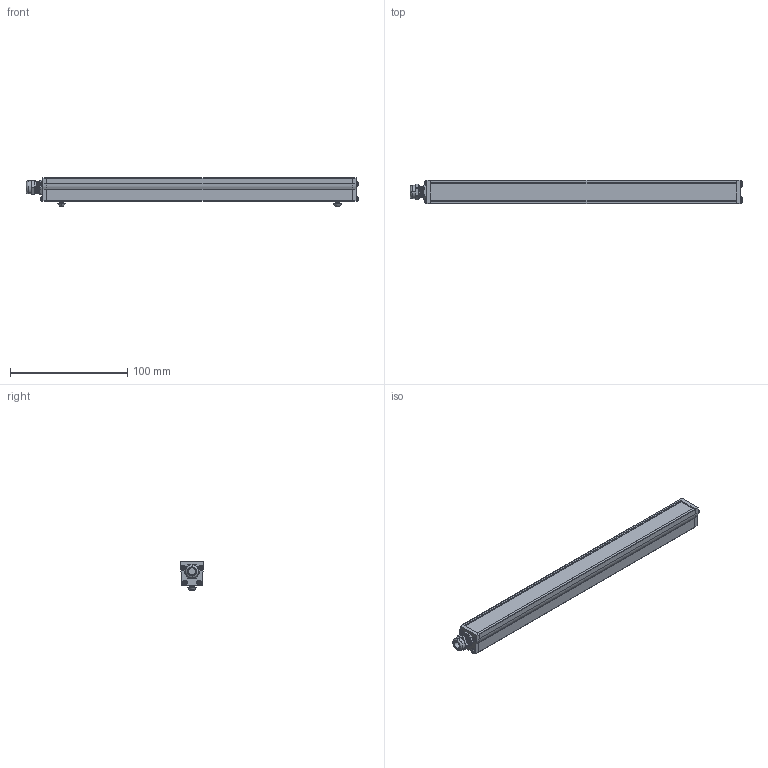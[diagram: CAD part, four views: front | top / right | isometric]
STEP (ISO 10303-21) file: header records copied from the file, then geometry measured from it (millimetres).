
FILE_DESCRIPTION (( 'STEP AP214' ), '1' );
FILE_NAME ('AL126 _NONSEALED__AL12610.stp', '2021-04-29T14:25:00', ( '' ), ( '' ), 'SwSTEP 2.0', 'SolidWorks 2018', '' );
FILE_SCHEMA (( 'AUTOMOTIVE_DESIGN' ));
Length unit declared in the file: inch
Products named in the file (15): BH-M4x6; 090877-XX_090877-10; 093469_093469; 090889-XX_090889-10; AL126 _NONSEALED__AL12610; 10mm Label (116 126)_Default<As Machined>; 093474_093474; 10mm Swish_Default<As Machined>; 090875; HN-M4_90592A016; 090876; 10mm Ai; 091052 (116 126); 091064_Model_Dome Fittings_Thread Type and Size(Dome)_M10 x 1.5_Hazardous Location-Explosive Proof(ATEX and EExe Versions)_No_; 10mm Advanced illumination
Assembly tree (24 placements, depth 3):
  AL126 _NONSEALED__AL12610
    090889-XX_090889-10
    090877-XX_090877-10
    090875
    090876
    093474_093474  x8
    093469_093469  x2
    091064_Model_Dome Fittings_Thread Type and Size(Dome)_M10 x 1.5_Hazardous Location-Explosive Proof(ATEX and EExe Versions)_No_
    HN-M4_90592A016  x2
    BH-M4x6  x2
    091052 (116 126)
      10mm Label (116 126)_Default<As Machined>
      10mm Ai
      10mm Swish_Default<As Machined>
      10mm Advanced illumination
Bounding box: 283.13 x 20.02 x 24.1 mm (x, y, z)
Volume: 38483.4 mm3; surface area: 55595.8 mm2
Topology: 48 solids, 48 shells, 1877 faces, 4840 edges, 3010 vertices
Faces by surface type: cylinder 934, plane 401, cone 362, bspline 120, torus 60
Entity records: 30293 total; most frequent: CARTESIAN_POINT 10456, ORIENTED_EDGE 4076, DIRECTION 3580, EDGE_CURVE 2038, VERTEX_POINT 1298, AXIS2_PLACEMENT_3D 1276, LINE 1028, VECTOR 1028
